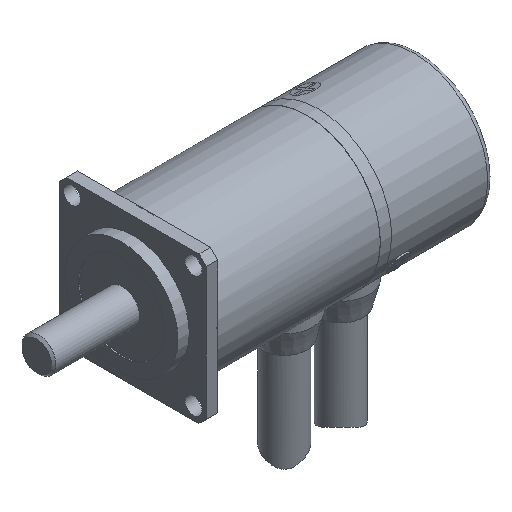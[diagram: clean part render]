
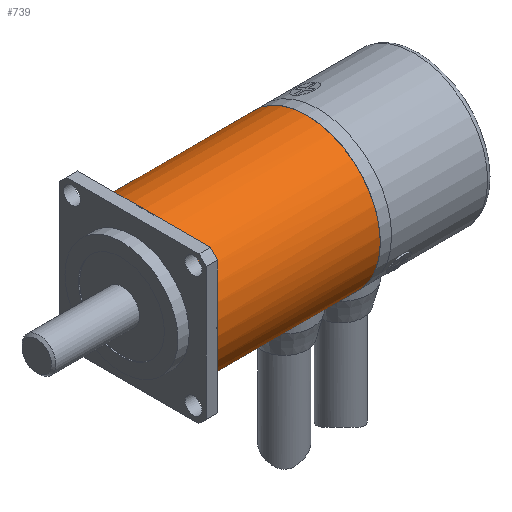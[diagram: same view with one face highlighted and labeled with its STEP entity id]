
A CAD part, isometric view. The second image highlights one B-rep face of the part: STEP entity #739.
In plain terms, the highlighted cylindrical face has radius 6.5 mm (diameter 13 mm), a full revolution.
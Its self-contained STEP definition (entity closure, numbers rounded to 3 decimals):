
#739=ADVANCED_FACE('',(#1070,#1071),#1072,.T.);
#1070=FACE_OUTER_BOUND('',#1448,.T.);
#1071=FACE_OUTER_BOUND('',#1449,.T.);
#1072=CYLINDRICAL_SURFACE('',#1450,6.5);
#1448=EDGE_LOOP('',(#1809,#1810,#1811,#1812));
#1449=EDGE_LOOP('',(#1813,#1814,#1815,#1816));
#1450=AXIS2_PLACEMENT_3D('',#1817,#1818,#1819);
#1809=ORIENTED_EDGE('',*,*,#2551,.T.);
#1810=ORIENTED_EDGE('',*,*,#2552,.T.);
#1811=ORIENTED_EDGE('',*,*,#2553,.T.);
#1812=ORIENTED_EDGE('',*,*,#2554,.T.);
#1813=ORIENTED_EDGE('',*,*,#2549,.T.);
#1814=ORIENTED_EDGE('',*,*,#2555,.T.);
#1815=ORIENTED_EDGE('',*,*,#2556,.T.);
#1816=ORIENTED_EDGE('',*,*,#2557,.T.);
#1817=CARTESIAN_POINT('',(0.0,0.0,0.0));
#1818=DIRECTION('',(-1.0,0.0,0.0));
#1819=DIRECTION('',(0.0,0.0,1.0));
#2549=EDGE_CURVE('',#2843,#2847,#2849,.T.);
#2551=EDGE_CURVE('',#2851,#2852,#2853,.F.);
#2552=EDGE_CURVE('',#2852,#2854,#2855,.F.);
#2553=EDGE_CURVE('',#2854,#2856,#2857,.F.);
#2554=EDGE_CURVE('',#2856,#2851,#2858,.F.);
#2555=EDGE_CURVE('',#2847,#2859,#2860,.F.);
#2556=EDGE_CURVE('',#2859,#2861,#2862,.T.);
#2557=EDGE_CURVE('',#2861,#2843,#2863,.T.);
#2843=VERTEX_POINT('',#3266);
#2847=VERTEX_POINT('',#3300);
#2849=B_SPLINE_CURVE_WITH_KNOTS('',3,(#3303,#3304,#3305,#3306,#3307,#3308,#3309,#3310,#3311,#3312,#3313,#3314,#3315,#3316,#3317,#3318,#3319,#3320,#3321,#3322,#3323,#3324,#3325,#3326,#3327,#3328,#3329,#3330,#3331,#3332),.UNSPECIFIED.,.F.,.F.,(4,2,2,2,2,2,2,2,2,2,2,2,2,2,4),(0.0,0.,0.001,0.001,0.002,0.002,0.003,0.003,0.004,0.004,0.005,0.005,0.006,0.006,0.006),.UNSPECIFIED.);
#2851=VERTEX_POINT('',#3334);
#2852=VERTEX_POINT('',#3335);
#2853=CIRCLE('',#3336,6.5);
#2854=VERTEX_POINT('',#3337);
#2855=CIRCLE('',#3338,6.5);
#2856=VERTEX_POINT('',#3339);
#2857=CIRCLE('',#3340,6.5);
#2858=CIRCLE('',#3341,6.5);
#2859=VERTEX_POINT('',#3342);
#2860=LINE('',#3343,#3344);
#2861=VERTEX_POINT('',#3345);
#2862=CIRCLE('',#3346,6.5);
#2863=LINE('',#3347,#3348);
#3266=CARTESIAN_POINT('',(14.4,2.0,-6.185));
#3300=CARTESIAN_POINT('',(14.4,-2.0,-6.185));
#3303=CARTESIAN_POINT('',(14.4,2.0,-6.185));
#3304=CARTESIAN_POINT('',(14.267,2.0,-6.185));
#3305=CARTESIAN_POINT('',(14.136,1.987,-6.189));
#3306=CARTESIAN_POINT('',(13.88,1.936,-6.205));
#3307=CARTESIAN_POINT('',(13.752,1.897,-6.217));
#3308=CARTESIAN_POINT('',(13.511,1.796,-6.247));
#3309=CARTESIAN_POINT('',(13.396,1.735,-6.265));
#3310=CARTESIAN_POINT('',(13.179,1.59,-6.303));
#3311=CARTESIAN_POINT('',(13.078,1.506,-6.324));
#3312=CARTESIAN_POINT('',(12.803,1.231,-6.385));
#3313=CARTESIAN_POINT('',(12.654,1.009,-6.426));
#3314=CARTESIAN_POINT('',(12.504,0.649,-6.469));
#3315=CARTESIAN_POINT('',(12.465,0.522,-6.48));
#3316=CARTESIAN_POINT('',(12.413,0.264,-6.496));
#3317=CARTESIAN_POINT('',(12.4,0.133,-6.5));
#3318=CARTESIAN_POINT('',(12.4,-0.129,-6.5));
#3319=CARTESIAN_POINT('',(12.413,-0.263,-6.496));
#3320=CARTESIAN_POINT('',(12.464,-0.52,-6.48));
#3321=CARTESIAN_POINT('',(12.502,-0.645,-6.469));
#3322=CARTESIAN_POINT('',(12.654,-1.01,-6.426));
#3323=CARTESIAN_POINT('',(12.801,-1.229,-6.386));
#3324=CARTESIAN_POINT('',(13.078,-1.506,-6.324));
#3325=CARTESIAN_POINT('',(13.178,-1.588,-6.303));
#3326=CARTESIAN_POINT('',(13.393,-1.733,-6.265));
#3327=CARTESIAN_POINT('',(13.51,-1.796,-6.247));
#3328=CARTESIAN_POINT('',(13.751,-1.896,-6.217));
#3329=CARTESIAN_POINT('',(13.876,-1.935,-6.205));
#3330=CARTESIAN_POINT('',(14.134,-1.987,-6.189));
#3331=CARTESIAN_POINT('',(14.267,-2.0,-6.185));
#3332=CARTESIAN_POINT('',(14.4,-2.0,-6.185));
#3334=CARTESIAN_POINT('',(2.0,6.5,0.));
#3335=CARTESIAN_POINT('',(2.0,0.,6.5));
#3336=AXIS2_PLACEMENT_3D('',#3961,#3962,#3963);
#3337=CARTESIAN_POINT('',(2.0,-6.5,0.));
#3338=AXIS2_PLACEMENT_3D('',#3964,#3965,#3966);
#3339=CARTESIAN_POINT('',(2.0,0.0,-6.5));
#3340=AXIS2_PLACEMENT_3D('',#3967,#3968,#3969);
#3341=AXIS2_PLACEMENT_3D('',#3970,#3971,#3972);
#3342=CARTESIAN_POINT('',(16.4,-2.0,-6.185));
#3343=CARTESIAN_POINT('',(0.0,-2.0,-6.185));
#3344=VECTOR('',#3973,1.0);
#3345=CARTESIAN_POINT('',(16.4,2.0,-6.185));
#3346=AXIS2_PLACEMENT_3D('',#3974,#3975,#3976);
#3347=CARTESIAN_POINT('',(0.,2.0,-6.185));
#3348=VECTOR('',#3977,1.0);
#3961=CARTESIAN_POINT('',(2.0,0.0,0.0));
#3962=DIRECTION('',(-1.0,0.0,0.0));
#3963=DIRECTION('',(0.0,0.0,1.0));
#3964=CARTESIAN_POINT('',(2.0,0.0,0.0));
#3965=DIRECTION('',(-1.0,0.0,0.0));
#3966=DIRECTION('',(0.0,0.0,1.0));
#3967=CARTESIAN_POINT('',(2.0,0.0,0.0));
#3968=DIRECTION('',(-1.0,0.0,0.0));
#3969=DIRECTION('',(0.0,0.0,1.0));
#3970=CARTESIAN_POINT('',(2.0,0.0,0.0));
#3971=DIRECTION('',(-1.0,0.0,0.0));
#3972=DIRECTION('',(0.0,0.0,1.0));
#3973=DIRECTION('',(-1.0,0.0,0.0));
#3974=CARTESIAN_POINT('',(16.4,0.0,0.0));
#3975=DIRECTION('',(-1.0,0.0,0.0));
#3976=DIRECTION('',(0.0,0.0,1.0));
#3977=DIRECTION('',(-1.0,0.0,0.0));
